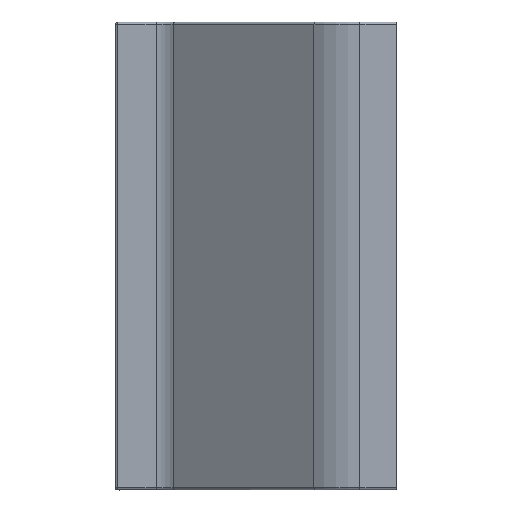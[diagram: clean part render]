
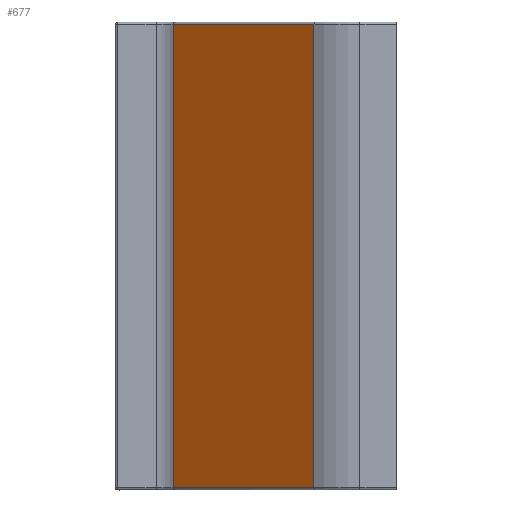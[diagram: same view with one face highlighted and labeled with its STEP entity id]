
A CAD part, top view. The second image highlights one B-rep face of the part: STEP entity #677.
In plain terms, the highlighted planar face has unit normal (-0.589, 0, 0.808).
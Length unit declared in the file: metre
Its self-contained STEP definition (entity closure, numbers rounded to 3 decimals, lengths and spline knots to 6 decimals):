
#17=PLANE('',#1032);
#50=LINE('',#1362,#94);
#59=LINE('',#1405,#103);
#72=LINE('',#1438,#116);
#74=LINE('',#1442,#118);
#94=VECTOR('',#1150,1.);
#103=VECTOR('',#1199,1.);
#116=VECTOR('',#1240,1.);
#118=VECTOR('',#1246,1.);
#255=ORIENTED_EDGE('',*,*,#393,.T.);
#256=ORIENTED_EDGE('',*,*,#351,.T.);
#257=ORIENTED_EDGE('',*,*,#391,.F.);
#258=ORIENTED_EDGE('',*,*,#373,.T.);
#351=EDGE_CURVE('',#425,#429,#50,.T.);
#373=EDGE_CURVE('',#442,#436,#59,.T.);
#391=EDGE_CURVE('',#442,#429,#72,.T.);
#393=EDGE_CURVE('',#436,#425,#74,.T.);
#425=VERTEX_POINT('',#1347);
#429=VERTEX_POINT('',#1361);
#436=VERTEX_POINT('',#1384);
#442=VERTEX_POINT('',#1402);
#531=EDGE_LOOP('',(#255,#256,#257,#258));
#573=FACE_BOUND('',#531,.T.);
#677=ADVANCED_FACE('',(#573),#17,.F.);
#1032=AXIS2_PLACEMENT_3D('',#1441,#1244,#1245);
#1150=DIRECTION('',(0.808,0.,0.589));
#1199=DIRECTION('',(-0.808,0.,-0.589));
#1240=DIRECTION('',(0.,-1.,0.));
#1244=DIRECTION('',(0.589,0.,-0.808));
#1245=DIRECTION('',(0.808,0.,0.589));
#1246=DIRECTION('',(0.,-1.,0.));
#1347=CARTESIAN_POINT('',(-0.123366,-0.026767,0.009847));
#1361=CARTESIAN_POINT('',(-0.122464,-0.026767,0.010504));
#1362=CARTESIAN_POINT('',(-0.122464,-0.026767,0.010504));
#1384=CARTESIAN_POINT('',(-0.123366,-0.023797,0.009847));
#1402=CARTESIAN_POINT('',(-0.122464,-0.023797,0.010504));
#1405=CARTESIAN_POINT('',(-0.122464,-0.023797,0.010504));
#1438=CARTESIAN_POINT('',(-0.122464,-0.023782,0.010504));
#1441=CARTESIAN_POINT('',(-0.122464,-0.023782,0.010504));
#1442=CARTESIAN_POINT('',(-0.123366,-0.023782,0.009847));
